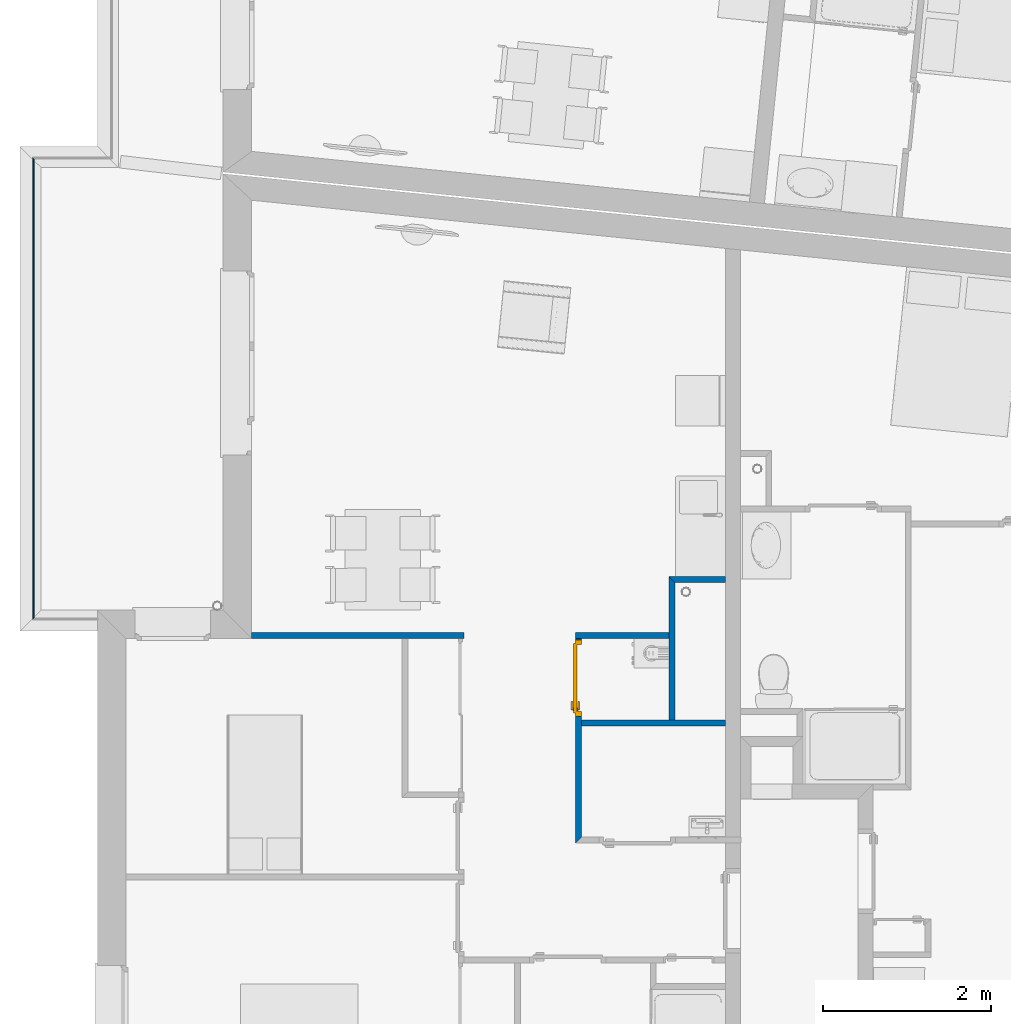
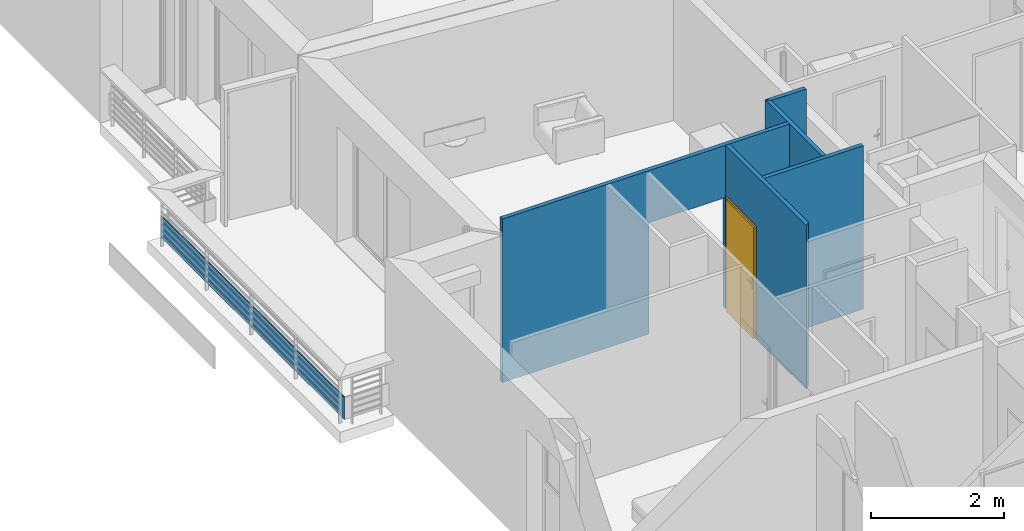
# One storey, part 41 of 164: 6 walls, 1 door, 2 openings.
"""IFC2X3 building model written with IfcOpenShell, lengths in millimetres."""

from ifc_helpers import new_model, entity, si_unit, converted_unit, derived_unit, money_unit, direction, frame, origin_with_axes, origin_2d_with_axis, place, context, subcontext, project, spatial, polyline, rectangle, outline, extrude, faceted_brep, source, transform, mapped, material, layer, layer_set, layer_usage, type_object, element, fill, save


model = new_model("IFC2X3")

# Units and contexts
model_context = context("Model", 3, precision=0.01, world=origin_with_axes(), true_north=direction((0.0, 1.0)))
body_context = subcontext(model_context, "Body", "Model", "MODEL_VIEW")
ifc_project = project(units=[si_unit("LENGTHUNIT", "METRE", prefix="MILLI"), si_unit("AREAUNIT", "SQUARE_METRE"), si_unit("VOLUMEUNIT", "CUBIC_METRE"), converted_unit("PLANEANGLEUNIT", "DEGREE", entity("IfcPlaneAngleMeasure", 0.0174532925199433), si_unit("PLANEANGLEUNIT", "RADIAN"), dimensions=[0, 0, 0, 0, 0, 0, 0]), money_unit("USD"), converted_unit("TIMEUNIT", "Year", entity("IfcTimeMeasure", 31557600.0), si_unit("TIMEUNIT", "SECOND"), dimensions=[0, 0, 1, 0, 0, 0, 0]), si_unit("MASSUNIT", "GRAM", prefix="KILO"), si_unit("THERMODYNAMICTEMPERATUREUNIT", "DEGREE_CELSIUS"), si_unit("LUMINOUSINTENSITYUNIT", "LUMEN"), si_unit("ENERGYUNIT", "JOULE", prefix="MEGA"), derived_unit("THERMALCONDUCTANCEUNIT", [(si_unit("POWERUNIT", "WATT"), 1), (si_unit("LENGTHUNIT", "METRE"), -1), (si_unit("THERMODYNAMICTEMPERATUREUNIT", "KELVIN"), -1)]), derived_unit("SPECIFICHEATCAPACITYUNIT", [(si_unit("ENERGYUNIT", "JOULE"), 1), (si_unit("MASSUNIT", "GRAM", prefix="KILO"), -1), (si_unit("THERMODYNAMICTEMPERATUREUNIT", "KELVIN"), -1)]), derived_unit("MASSDENSITYUNIT", [(si_unit("MASSUNIT", "GRAM", prefix="KILO"), 1), (si_unit("VOLUMEUNIT", "CUBIC_METRE"), -1)])], contexts=[model_context])

# Site, building, storey
site_placement = place(None, origin_with_axes())
site = spatial("IfcSite", under=ifc_project, at=site_placement, Name="Site", CompositionType="ELEMENT")
building_placement = place(site_placement, origin_with_axes())
building = spatial("IfcBuilding", under=site, at=building_placement, Name="Bâtiment", CompositionType="ELEMENT")
storey_placement = place(building_placement, frame((0.0, 0.0, 5750.0), z_axis=(0.0, 0.0, 1.0), x_axis=(1.0, 0.0, 0.0)))
storey = spatial("IfcBuildingStorey", under=building, at=storey_placement, Name="Etage1", CompositionType="ELEMENT", Elevation=5750.0)

# Wall, opening
ifc_material_1 = material(Name="Hachure solide 268963992")
ifc_layer_1 = layer(ifc_material_1, 70.0, ventilated="UNKNOWN")
ifc_layer_set_1 = layer_set([ifc_layer_1], Name="Cloison 70 0826278243")
ifc_layer_usage_1 = layer_usage(ifc_layer_set_1, "AXIS2", "NEGATIVE", 70.0)
wall_type_1 = type_object("IfcWallType", Name="Cloison 70 0826278243 70", PredefinedType="NOTDEFINED")
wall_1_placement = place(storey_placement, frame((2223456.480168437, -626341.2135278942, 0.0), z_axis=(0.0, 0.0, 1.0), x_axis=(-0.9999999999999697, -2.46120931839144e-07, 0.0)))
wall_1 = element("IfcWallStandardCase", 1, at=wall_1_placement, inside=storey, type_object=wall_type_1, material=ifc_layer_usage_1, Name="Mur-149", context=body_context, shape_type="SweptSolid", body=[
    extrude(outline(polyline([(0.0, 0.0), (4982.244498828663, 0.0), (4982.244498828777, 70.00000000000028), (1.722844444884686e-05, 70.00000000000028), (0.0, 0.0)])), origin_with_axes(), (0.0, 0.0, 1.0), 3000.0),
])
opening_1_placement = place(wall_1_placement, frame((1779.919160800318, 0.0, 0.0), z_axis=(0.0, 0.0, 1.0), x_axis=(1.0, 0.0, 0.0)))
element("IfcOpeningElement", 2, at=opening_1_placement, cuts=wall_1, Name="Por-278", context=body_context, shape_type="SweptSolid", body=[
    extrude(rectangle(XDim=1331.518507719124, YDim=2040.0, at=origin_2d_with_axis()), frame((-1.13686837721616e-10, 0.0, 1020.0), z_axis=(0.0, 1.0, 0.0), x_axis=(1.0, 0.0, 0.0)), (0.0, 0.0, -1.0), 70.0),
    extrude(rectangle(XDim=1331.518507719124, YDim=2040.0, at=origin_2d_with_axis()), frame((-1.13686837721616e-10, 0.0, 1020.0), z_axis=(0.0, -1.0, 0.0), x_axis=(1.0, 0.0, 0.0)), (0.0, 0.0, -1.0), 70.0),
])

# Walls
ifc_layer_usage_2 = layer_usage(ifc_layer_set_1, "AXIS2", "NEGATIVE", 0.0)
wall_2_placement = place(storey_placement, frame((2223456.480168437, -627455.7960997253, 0.0), z_axis=(0.0, 0.0, 1.0), x_axis=(0.0, 1.0, 0.0)))
element("IfcWallStandardCase", 3, at=wall_2_placement, inside=storey, type_object=wall_type_1, material=ifc_layer_usage_2, Name="Mur-149", context=body_context, shape_type="SweptSolid", body=[
    extrude(outline(polyline([(70.00001615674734, -70.00000000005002), (1714.571800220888, -70.00000000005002), (1784.571411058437, 0.0), (70.00000000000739, 0.0), (70.00001615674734, -70.00000000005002)])), origin_with_axes(), (0.0, 0.0, 1.0), 3000.0),
])
ifc_layer_usage_3 = layer_usage(ifc_layer_set_1, "AXIS2", "POSITIVE", 0.0)
wall_3_placement = place(storey_placement, frame((2224312.341603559, -625671.219930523, 0.0), z_axis=(0.0, 0.0, 1.0), x_axis=(-0.9999999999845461, -5.55947922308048e-06, 0.0)))
element("IfcWallStandardCase", 4, at=wall_3_placement, inside=storey, type_object=wall_type_1, material=ifc_layer_usage_3, Name="Mur-149", context=body_context, shape_type="SweptSolid", body=[
    extrude(outline(polyline([(180.0000000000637, 0.0), (855.8614351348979, 0.0), (785.8618242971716, 70.00000000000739), (180.0000000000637, 70.00000000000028), (180.0000000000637, 0.0)])), origin_with_axes(), (0.0, 0.0, 1.0), 3000.0),
])
ifc_layer_usage_4 = layer_usage(ifc_layer_set_1, "AXIS2", "POSITIVE", -70.0)
wall_4_placement = place(storey_placement, frame((2224312.352303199, -627455.795902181, 0.0), z_axis=(0.0, 0.0, 1.0), x_axis=(-0.9999999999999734, -2.308105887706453e-07, 0.0)))
element("IfcWallStandardCase", 5, at=wall_4_placement, inside=storey, type_object=wall_type_1, material=ifc_layer_usage_4, Name="Mur-149", context=body_context, shape_type="SweptSolid", body=[
    extrude(outline(polyline([(180.0011513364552, -70.00000000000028), (1900.032660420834, -70.00000000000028), (1900.032723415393, 0.0), (180.0007783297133, 0.0), (180.0011513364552, -70.00000000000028)])), origin_with_axes(), (0.0, 0.0, 1.0), 3000.0),
])

# Wall, opening, door
ifc_layer_usage_5 = layer_usage(ifc_layer_set_1, "AXIS2", "NEGATIVE", 70.0)
wall_5_placement = place(storey_placement, frame((2222342.320325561, -626341.213752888, 0.0), z_axis=(0.0, 0.0, 1.0), x_axis=(-6.691099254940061e-07, -0.9999999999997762, 0.0)))
wall_5 = element("IfcWallStandardCase", 6, at=wall_5_placement, inside=storey, type_object=wall_type_1, material=ifc_layer_usage_5, Name="Mur-149", context=body_context, shape_type="SweptSolid", body=[
    extrude(outline(polyline([(70.00004922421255, 0.0), (2508.773539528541, 0.0), (2438.773492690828, 69.99999999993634), (69.99998515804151, 69.99999999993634), (70.00004922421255, 0.0)])), origin_with_axes(), (0.0, 0.0, 1.0), 3000.0),
])
opening_2_placement = place(wall_5_placement, frame((543.3214363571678, 2.273736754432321e-10, 0.0), z_axis=(0.0, 0.0, 1.0), x_axis=(1.0, 0.0, 0.0)))
opening_2 = element("IfcOpeningElement", 7, at=opening_2_placement, cuts=wall_5, Name="Por-278", context=body_context, shape_type="SweptSolid", body=[
    extrude(rectangle(XDim=910.0, YDim=2080.0, at=origin_2d_with_axis()), frame((0.0, 69.99999999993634, 1040.0), z_axis=(0.0, -1.0, 0.0), x_axis=(-1.0, 0.0, 0.0)), (0.0, 0.0, 1.0), 140.0),
])
door_style = type_object("IfcDoorStyle", Name="Porte_1v", ConstructionType="NOTDEFINED", OperationType="NOTDEFINED", ParameterTakesPrecedence=False, Sizeable=False)
shared_shape = source(origin_with_axes(), body_context, "Body", "Brep", [
    faceted_brep([(454.9999999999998, 0.0, 0.0), (414.9999999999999, 0.0, 0.0), (414.9999999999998, 0.0, 2040.0), (-414.9999999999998, 0.0, 2040.0), (-414.9999999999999, 0.0, 0.0), (-454.9999999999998, 0.0, 0.0), (-454.9999999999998, 0.0, 2080.0), (454.9999999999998, 0.0, 2080.0), (454.9999999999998, -69.99999999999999, 0.0), (399.9999999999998, -69.99999999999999, 0.0), (399.9999999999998, -15.0, 0.0), (414.9999999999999, -15.0, 0.0), (414.9999999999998, -15.0, 2040.0), (-414.9999999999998, -15.0, 2040.0), (-414.9999999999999, -15.0, 0.0), (-399.9999999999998, -15.0, 0.0), (-399.9999999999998, -69.99999999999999, 0.0), (-454.9999999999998, -69.99999999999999, 0.0), (-454.9999999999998, -69.99999999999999, 2080.0), (454.9999999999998, -69.99999999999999, 2080.0), (-399.9999999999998, -69.99999999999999, 2025.0), (399.9999999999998, -69.99999999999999, 2025.0), (399.9999999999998, -15.0, 2025.0), (-399.9999999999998, -15.0, 2025.0)], [[[0, 1, 2, 3, 4, 5, 6, 7]], [[0, 8, 9, 10, 11, 1]], [[1, 11, 12, 2]], [[2, 12, 13, 3]], [[3, 13, 14, 4]], [[5, 4, 14, 15, 16, 17]], [[18, 6, 5, 17]], [[19, 7, 6, 18]], [[8, 0, 7, 19]], [[9, 8, 19, 18, 17, 16, 20, 21]], [[10, 9, 21, 22]], [[11, 10, 22, 23, 15, 14, 13, 12]], [[23, 20, 16, 15]], [[22, 21, 20, 23]]]),
    faceted_brep([(-349.9999999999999, -15.0, 900.0), (-389.9999999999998, -15.0, 900.0), (-389.9999999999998, -15.0, 1100.0), (-349.9999999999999, -15.0, 1100.0), (-349.9999999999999, -24.99999999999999, 900.0), (-389.9999999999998, -24.99999999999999, 900.0), (-389.9999999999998, -24.99999999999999, 1100.0), (-349.9999999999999, -24.99999999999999, 1100.0)], [[[0, 1, 2, 3]], [[1, 0, 4, 5]], [[2, 1, 5, 6]], [[3, 2, 6, 7]], [[0, 3, 7, 4]], [[5, 4, 7, 6]]]),
    faceted_brep([(-279.9999999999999, -24.99999999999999, 1000.0), (-379.9999999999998, -24.99999999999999, 1000.0), (-379.9999999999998, -24.99999999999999, 1020.0), (-279.9999999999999, -24.99999999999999, 1020.0), (-279.9999999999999, -44.99999999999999, 1000.0), (-379.9999999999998, -44.99999999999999, 1000.0), (-379.9999999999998, -44.99999999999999, 1020.0), (-279.9999999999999, -44.99999999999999, 1020.0)], [[[0, 1, 2, 3]], [[1, 0, 4, 5]], [[2, 1, 5, 6]], [[3, 2, 6, 7]], [[0, 3, 7, 4]], [[5, 4, 7, 6]]]),
    faceted_brep([(-349.9999999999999, 34.99999999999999, 900.0), (-389.9999999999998, 34.99999999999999, 900.0), (-389.9999999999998, 34.99999999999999, 1100.0), (-349.9999999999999, 34.99999999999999, 1100.0), (-349.9999999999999, 24.99999999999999, 900.0), (-389.9999999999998, 24.99999999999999, 900.0), (-389.9999999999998, 24.99999999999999, 1100.0), (-349.9999999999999, 24.99999999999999, 1100.0)], [[[0, 1, 2, 3]], [[1, 0, 4, 5]], [[2, 1, 5, 6]], [[3, 2, 6, 7]], [[0, 3, 7, 4]], [[5, 4, 7, 6]]]),
    faceted_brep([(-279.9999999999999, 54.99999999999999, 1000.0), (-379.9999999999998, 54.99999999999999, 1000.0), (-379.9999999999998, 54.99999999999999, 1020.0), (-279.9999999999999, 54.99999999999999, 1020.0), (-279.9999999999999, 34.99999999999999, 1000.0), (-379.9999999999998, 34.99999999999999, 1000.0), (-379.9999999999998, 34.99999999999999, 1020.0), (-279.9999999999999, 34.99999999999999, 1020.0)], [[[0, 1, 2, 3]], [[1, 0, 4, 5]], [[2, 1, 5, 6]], [[3, 2, 6, 7]], [[0, 3, 7, 4]], [[5, 4, 7, 6]]]),
    faceted_brep([(-414.9999999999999, 24.99999999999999, 0.0), (414.9999999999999, 24.99999999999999, 0.0), (414.9999999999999, -15.0, 0.0), (-414.9999999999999, -15.0, 0.0), (-414.9999999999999, 24.99999999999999, 2040.0), (414.9999999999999, 24.99999999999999, 2040.0), (414.9999999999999, -15.0, 2040.0), (-414.9999999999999, -15.0, 2040.0)], [[[0, 1, 2, 3]], [[0, 4, 5, 1]], [[1, 5, 6, 2]], [[3, 2, 6, 7]], [[4, 0, 3, 7]], [[5, 4, 7, 6]]]),
])
door_placement = place(opening_2_placement, frame((415.0000000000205, -1.13686837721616e-10, 0.0), z_axis=(0.0, 0.0, 1.0), x_axis=(-1.0, 0.0, 0.0)))
door = element("IfcDoor", 8, at=door_placement, inside=storey, type_object=door_style, Name="Por-278", OverallHeight=2040.0, OverallWidth=830.0, context=body_context, shape_type="MappedRepresentation", body=[
    mapped(shared_shape, transform((414.9999999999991, 0.0, 0.0))),
])
fill(opening_2, door)

# Wall
ifc_material_2 = material(Name="MANQUANT")
ifc_layer_2 = layer(ifc_material_2, 20.0, ventilated="UNKNOWN")
ifc_layer_set_2 = layer_set([ifc_layer_2], Name="MANQUANT 20")
ifc_layer_usage_6 = layer_usage(ifc_layer_set_2, "AXIS2", "NEGATIVE", 20.0)
wall_type_2 = type_object("IfcWallType", Name="MANQUANT 20", PredefinedType="NOTDEFINED")
wall_6_placement = place(storey_placement, frame((2215859.235568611, -620663.1638199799, 99.99999999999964), z_axis=(0.0, 0.0, 1.0), x_axis=(0.0, -1.0, 0.0)))
element("IfcWallStandardCase", 9, at=wall_6_placement, inside=storey, type_object=wall_type_2, material=ifc_layer_usage_6, Name="Mur-188", context=body_context, shape_type="SweptSolid", body=[
    extrude(outline(polyline([(0.0, 0.0), (5523.543722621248, 0.0), (5503.543722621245, 19.99999999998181), (20.00000000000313, 19.99999999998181), (0.0, 0.0)])), origin_with_axes(), (0.0, 0.0, 1.0), 400.0),
])

save(model, "model.ifc")
